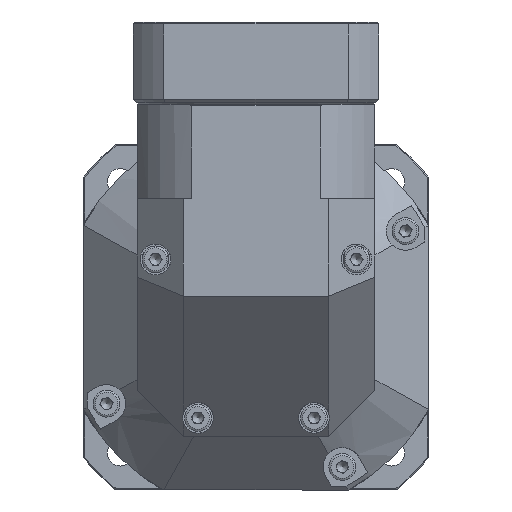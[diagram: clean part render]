
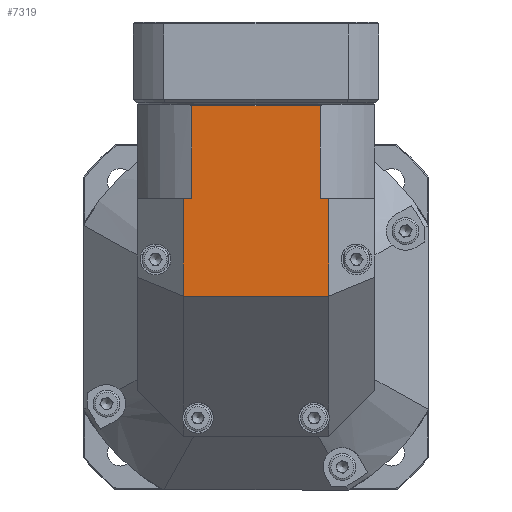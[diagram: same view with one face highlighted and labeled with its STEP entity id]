
A CAD part, front view. The second image highlights one B-rep face of the part: STEP entity #7319.
In plain terms, the highlighted planar face has unit normal (0, -1, 0).
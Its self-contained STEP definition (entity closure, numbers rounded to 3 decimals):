
#7248=CARTESIAN_POINT('',(-31.0,-31.0,55.5));
#7249=DIRECTION('',(0.0,-1.0,0.0));
#7250=DIRECTION('',(0.0,0.0,-1.0));
#7251=AXIS2_PLACEMENT_3D('',#7248,#7249,#7250);
#7252=PLANE('',#7251);
#7253=CARTESIAN_POINT('',(19.,-31.,5.5));
#7254=VERTEX_POINT('',#7253);
#7255=CARTESIAN_POINT('',(19.,-31.0,31.));
#7256=VERTEX_POINT('',#7255);
#7257=CARTESIAN_POINT('',(19.,-31.0,5.5));
#7258=DIRECTION('',(0.0,0.0,1.0));
#7259=VECTOR('',#7258,25.5);
#7260=LINE('',#7257,#7259);
#7261=EDGE_CURVE('',#7254,#7256,#7260,.T.);
#7262=ORIENTED_EDGE('',*,*,#7261,.T.);
#7263=CARTESIAN_POINT('',(16.78,-31.0,31.));
#7264=VERTEX_POINT('',#7263);
#7265=CARTESIAN_POINT('',(19.,-31.0,31.));
#7266=DIRECTION('',(-1.0,0.0,0.0));
#7267=VECTOR('',#7266,2.22);
#7268=LINE('',#7265,#7267);
#7269=EDGE_CURVE('',#7256,#7264,#7268,.T.);
#7270=ORIENTED_EDGE('',*,*,#7269,.T.);
#7271=CARTESIAN_POINT('',(16.78,-31.0,55.2));
#7272=VERTEX_POINT('',#7271);
#7273=CARTESIAN_POINT('',(16.78,-31.0,31.));
#7274=DIRECTION('',(0.0,0.0,1.0));
#7275=VECTOR('',#7274,24.2);
#7276=LINE('',#7273,#7275);
#7277=EDGE_CURVE('',#7264,#7272,#7276,.T.);
#7278=ORIENTED_EDGE('',*,*,#7277,.T.);
#7279=CARTESIAN_POINT('',(-16.78,-31.0,55.2));
#7280=VERTEX_POINT('',#7279);
#7281=CARTESIAN_POINT('',(16.78,-31.0,55.2));
#7282=DIRECTION('',(-1.0,0.0,0.0));
#7283=VECTOR('',#7282,33.56);
#7284=LINE('',#7281,#7283);
#7285=EDGE_CURVE('',#7272,#7280,#7284,.T.);
#7286=ORIENTED_EDGE('',*,*,#7285,.T.);
#7287=CARTESIAN_POINT('',(-16.78,-31.0,31.));
#7288=VERTEX_POINT('',#7287);
#7289=CARTESIAN_POINT('',(-16.78,-31.0,55.2));
#7290=DIRECTION('',(0.0,0.0,-1.0));
#7291=VECTOR('',#7290,24.2);
#7292=LINE('',#7289,#7291);
#7293=EDGE_CURVE('',#7280,#7288,#7292,.T.);
#7294=ORIENTED_EDGE('',*,*,#7293,.T.);
#7295=CARTESIAN_POINT('',(-19.,-31.0,31.));
#7296=VERTEX_POINT('',#7295);
#7297=CARTESIAN_POINT('',(-16.78,-31.0,31.));
#7298=DIRECTION('',(-1.0,0.0,0.0));
#7299=VECTOR('',#7298,2.22);
#7300=LINE('',#7297,#7299);
#7301=EDGE_CURVE('',#7288,#7296,#7300,.T.);
#7302=ORIENTED_EDGE('',*,*,#7301,.T.);
#7303=CARTESIAN_POINT('',(-19.,-31.,5.5));
#7304=VERTEX_POINT('',#7303);
#7305=CARTESIAN_POINT('',(-19.,-31.0,31.));
#7306=DIRECTION('',(0.0,0.0,-1.0));
#7307=VECTOR('',#7306,25.5);
#7308=LINE('',#7305,#7307);
#7309=EDGE_CURVE('',#7296,#7304,#7308,.T.);
#7310=ORIENTED_EDGE('',*,*,#7309,.T.);
#7311=CARTESIAN_POINT('',(19.,-31.,5.5));
#7312=DIRECTION('',(-1.0,0.0,0.0));
#7313=VECTOR('',#7312,38.);
#7314=LINE('',#7311,#7313);
#7315=EDGE_CURVE('',#7254,#7304,#7314,.T.);
#7316=ORIENTED_EDGE('',*,*,#7315,.F.);
#7317=EDGE_LOOP('',(#7262,#7270,#7278,#7286,#7294,#7302,#7310,#7316));
#7318=FACE_OUTER_BOUND('',#7317,.T.);
#7319=ADVANCED_FACE('',(#7318),#7252,.T.);
